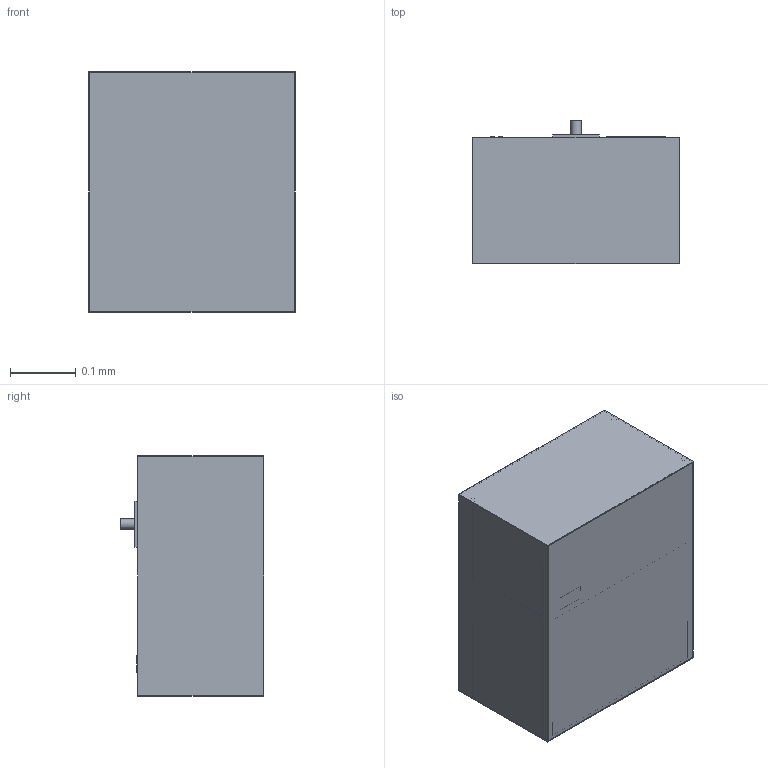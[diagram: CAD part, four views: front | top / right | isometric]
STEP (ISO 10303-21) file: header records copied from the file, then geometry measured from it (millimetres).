
FILE_DESCRIPTION(('Open CASCADE Model'),'2;1');
FILE_NAME('Open CASCADE Shape Model','2026-10-04T13:16:15',('Author'),( 'Open CASCADE'),'Open CASCADE STEP processor 7.9','Open CASCADE 7.9' ,'Unknown');
FILE_SCHEMA(('AUTOMOTIVE_DESIGN { 1 0 10303 214 1 1 1 1 }'));
Length unit declared in the file: millimetre
Products named in the file (47): MOD-alloy-solidification; experiment__furnace_base_plate; experiment__aerogel_and_MLI_jacket_round_the_hot_block; experiment__cold_zone_copper_block; experiment__hot_zone_heater_block; experiment__copper_strap_cold_block_to_the_cold_wall; sample__glass_crucible_with_wall_thermocouples; sample__SCN_camphor_sample; experiment__NEMA_17_stepper_with_encoder; experiment__lead_screw; experiment__linear_rail; experiment__carriage; experiment__pull_arm_and_crucible_clamp; experiment__long_working_distance_lens; imaging__CMOS_camera; experiment__LED_transmitted_light_from_below_the_gap; electronics__controller_enclosure_boards_data_storage; electronics__connector_1; electronics__connector_2; housing__bottom_panel; housing__top_panel; housing__side_panel_L; housing__side_panel_R; housing__back_panel_bay_interface; housing__front_panel; housing__corner_post_1; housing__corner_post_2; housing__corner_post_3; housing__corner_post_4; housing__shelf_1; thermal__cold_wall_to_the_bay_s_thermoelectric_block; interface__blind_mate_connector_power_data_video; interface__grapple_fixture_base_Dexter_L; interface__grapple_fixture_pin; interface__status_LEDs; interface__label_plate; harness__harness_controller_and_data_storage_to_gradient_furnace_
crucible_run_1; harness__harness_controller_and_data_storage_to_gradient_furnace_
crucible_run_2; harness__harness_controller_and_data_storage_to_gradient_furnace_
crucible_run_3; harness__harness_controller_and_data_storage_to_gradient_furnace_
crucible_run_4 ...
Assembly tree (46 placements, depth 2):
  MOD-alloy-solidification
    experiment__furnace_base_plate
    experiment__aerogel_and_MLI_jacket_round_the_hot_block
    experiment__cold_zone_copper_block
    experiment__hot_zone_heater_block
    experiment__copper_strap_cold_block_to_the_cold_wall
    sample__glass_crucible_with_wall_thermocouples
    sample__SCN_camphor_sample
    experiment__NEMA_17_stepper_with_encoder
    experiment__lead_screw
    experiment__linear_rail
    experiment__carriage
    experiment__pull_arm_and_crucible_clamp
    experiment__long_working_distance_lens
    imaging__CMOS_camera
    experiment__LED_transmitted_light_from_below_the_gap
    electronics__controller_enclosure_boards_data_storage
    electronics__connector_1
    electronics__connector_2
    housing__bottom_panel
    housing__top_panel
    housing__side_panel_L
    housing__side_panel_R
    housing__back_panel_bay_interface
    housing__front_panel
    housing__corner_post_1
    housing__corner_post_2
    housing__corner_post_3
    housing__corner_post_4
    housing__shelf_1
    thermal__cold_wall_to_the_bay_s_thermoelectric_block
    interface__blind_mate_connector_power_data_video
    interface__grapple_fixture_base_Dexter_L
    interface__grapple_fixture_pin
    interface__status_LEDs
    interface__label_plate
    harness__harness_controller_and_data_storage_to_gradient_furnace_
crucible_run_1
    harness__harness_controller_and_data_storage_to_gradient_furnace_
crucible_run_2
    harness__harness_controller_and_data_storage_to_gradient_furnace_
crucible_run_3
    harness__harness_controller_and_data_storage_to_gradient_furnace_
crucible_run_4
    harness__harness_controller_and_data_storage_to_gradient_furnace_
crucible_run_5
    harness__harness_controller_and_data_storage_to_gradient_furnace_
crucible_run_6
    harness__harness_controller_to_the_connector_run_1
    harness__harness_controller_to_the_connector_run_2
    harness__harness_controller_to_the_connector_run_3
    harness__harness_controller_to_the_connector_run_4
    harness__harness_controller_to_the_connector_run_5
Bounding box: 0.31 x 0.22 x 0.37 mm (x, y, z)
Volume: 0 mm3; surface area: 1.5 mm2
Topology: 48 solids, 49 shells, 235 faces, 408 edges, 272 vertices
Faces by surface type: plane 211, cylinder 24
Full cylindrical faces by diameter (mm): 0.005 x11, 0.006 x2, 0.008 x1, 0.01 x2, 0.012 x3, 0.014 x1, 0.015 x2, 0.016 x1, 0.028 x1
Entity records: 11980 total; most frequent: DIRECTION 1836, CARTESIAN_POINT 1778, LINE 1128, VECTOR 1128, ORIENTED_EDGE 816, PCURVE 816, DEFINITIONAL_REPRESENTATION 816, EDGE_CURVE 408
